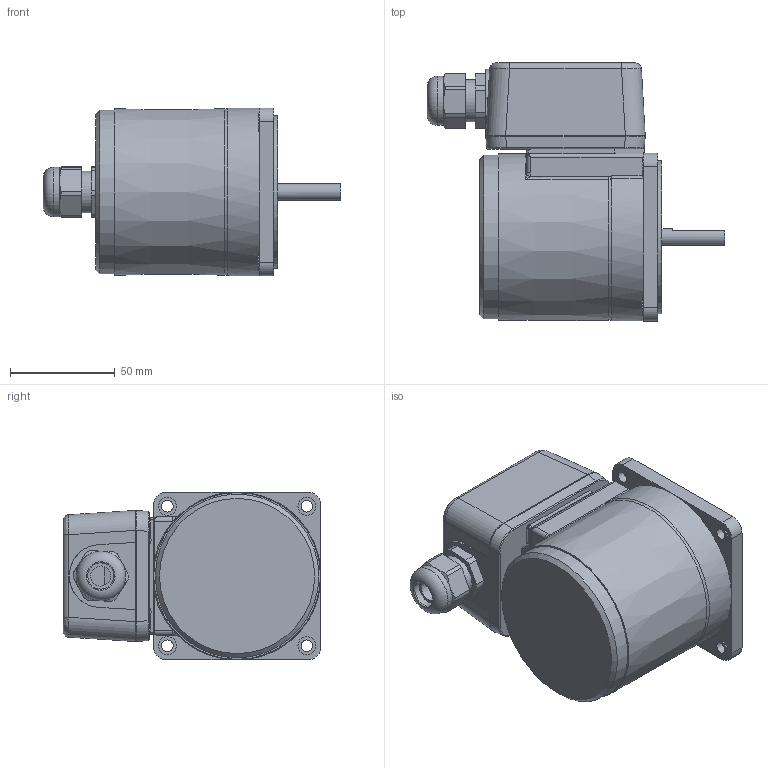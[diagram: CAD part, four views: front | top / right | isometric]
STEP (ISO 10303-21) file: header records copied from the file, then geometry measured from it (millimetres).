
FILE_DESCRIPTION((''),'2;1');
FILE_NAME('D:\STP파일\25W MOTOR\T BOX TYPE\S8I15D-T.stp','2013-05-20T16:46:01',('leebh'),(''),'Autodesk Inventor 2011','Autodesk Inventor 2011','');
FILE_SCHEMA(('AUTOMOTIVE_DESIGN { 1 0 10303 214 1 1 1 1 }'));
Length unit declared in the file: millimetre
Products named in the file (1): 부품3
Bounding box: 142 x 123 x 80 mm (x, y, z)
Volume: 631314.2 mm3; surface area: 59136.4 mm2
Topology: 1 solids, 9 shells, 366 faces, 901 edges, 573 vertices
Faces by surface type: plane 190, cylinder 108, bspline 46, torus 18, cone 4
Full cylindrical faces by diameter (mm): 2.55 x2, 5.5 x4, 5.6 x4, 6.3 x4, 8 x1, 8.5 x4, 12.5 x1, 15 x1, 20 x2, 21 x1, 23.6 x1, 34 x1, 73 x1, 78 x1
Entity records: 12443 total; most frequent: CARTESIAN_POINT 3893, ORIENTED_EDGE 1676, DIRECTION 1633, EDGE_CURVE 838, AXIS2_PLACEMENT_3D 587, VERTEX_POINT 560, VECTOR 459, LINE 459
